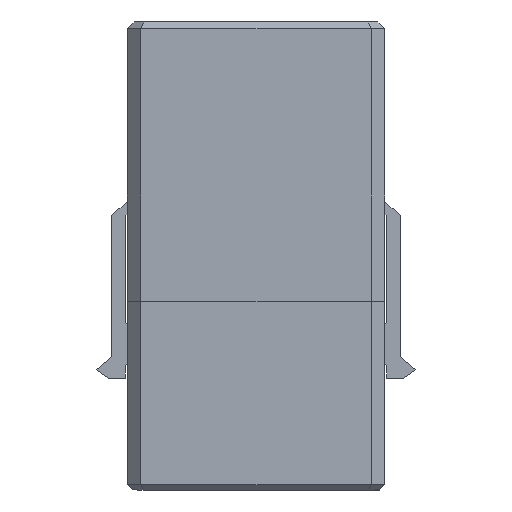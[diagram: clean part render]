
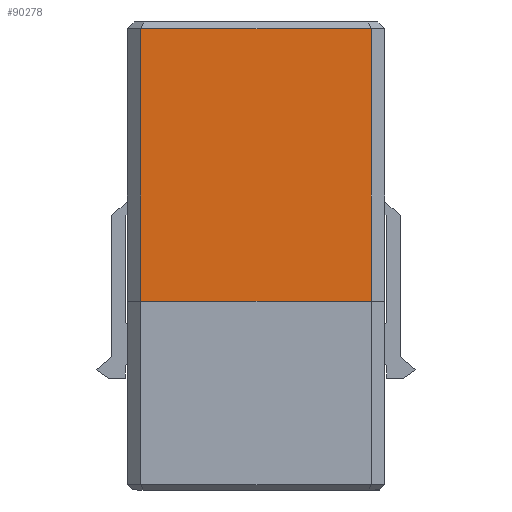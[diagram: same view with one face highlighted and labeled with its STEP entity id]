
A CAD part, left-side view. The second image highlights one B-rep face of the part: STEP entity #90278.
In plain terms, the highlighted planar face has unit normal (-1, 0, 0).
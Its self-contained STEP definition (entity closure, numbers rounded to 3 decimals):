
#90278 = ADVANCED_FACE('',(#90279),#90293,.T.);
#90279 = FACE_BOUND('',#90280,.T.);
#90280 = EDGE_LOOP('',(#90281,#90316,#90344,#90372));
#90281 = ORIENTED_EDGE('',*,*,#90282,.T.);
#90282 = EDGE_CURVE('',#90283,#90285,#90287,.T.);
#90283 = VERTEX_POINT('',#90284);
#90284 = CARTESIAN_POINT('',(-73.5,-13.4,22.));
#90285 = VERTEX_POINT('',#90286);
#90286 = CARTESIAN_POINT('',(-73.5,-13.4,53.7));
#90287 = SURFACE_CURVE('',#90288,(#90292,#90304),.PCURVE_S1.);
#90288 = LINE('',#90289,#90290);
#90289 = CARTESIAN_POINT('',(-73.5,-13.4,22.));
#90290 = VECTOR('',#90291,1.);
#90291 = DIRECTION('',(0.,0.,1.));
#90292 = PCURVE('',#90293,#90298);
#90293 = PLANE('',#90294);
#90294 = AXIS2_PLACEMENT_3D('',#90295,#90296,#90297);
#90295 = CARTESIAN_POINT('',(-73.5,-13.4,22.));
#90296 = DIRECTION('',(-1.,-0.,0.));
#90297 = DIRECTION('',(-0.,1.,0.));
#90298 = DEFINITIONAL_REPRESENTATION('',(#90299),#90303);
#90299 = LINE('',#90300,#90301);
#90300 = CARTESIAN_POINT('',(0.,0.));
#90301 = VECTOR('',#90302,1.);
#90302 = DIRECTION('',(0.,-1.));
#90303 = ( GEOMETRIC_REPRESENTATION_CONTEXT(2) 
PARAMETRIC_REPRESENTATION_CONTEXT() REPRESENTATION_CONTEXT('2D SPACE',''
  ) );
#90304 = PCURVE('',#90305,#90310);
#90305 = PLANE('',#90306);
#90306 = AXIS2_PLACEMENT_3D('',#90307,#90308,#90309);
#90307 = CARTESIAN_POINT('',(-73.5,-13.4,22.));
#90308 = DIRECTION('',(0.707,0.707,-0.));
#90309 = DIRECTION('',(0.707,-0.707,0.));
#90310 = DEFINITIONAL_REPRESENTATION('',(#90311),#90315);
#90311 = LINE('',#90312,#90313);
#90312 = CARTESIAN_POINT('',(0.,0.));
#90313 = VECTOR('',#90314,1.);
#90314 = DIRECTION('',(0.,-1.));
#90315 = ( GEOMETRIC_REPRESENTATION_CONTEXT(2) 
PARAMETRIC_REPRESENTATION_CONTEXT() REPRESENTATION_CONTEXT('2D SPACE',''
  ) );
#90316 = ORIENTED_EDGE('',*,*,#90317,.T.);
#90317 = EDGE_CURVE('',#90285,#90318,#90320,.T.);
#90318 = VERTEX_POINT('',#90319);
#90319 = CARTESIAN_POINT('',(-73.5,13.4,53.7));
#90320 = SURFACE_CURVE('',#90321,(#90325,#90332),.PCURVE_S1.);
#90321 = LINE('',#90322,#90323);
#90322 = CARTESIAN_POINT('',(-73.5,-13.4,53.7));
#90323 = VECTOR('',#90324,1.);
#90324 = DIRECTION('',(-0.,1.,0.));
#90325 = PCURVE('',#90293,#90326);
#90326 = DEFINITIONAL_REPRESENTATION('',(#90327),#90331);
#90327 = LINE('',#90328,#90329);
#90328 = CARTESIAN_POINT('',(0.,-31.7));
#90329 = VECTOR('',#90330,1.);
#90330 = DIRECTION('',(1.,0.));
#90331 = ( GEOMETRIC_REPRESENTATION_CONTEXT(2) 
PARAMETRIC_REPRESENTATION_CONTEXT() REPRESENTATION_CONTEXT('2D SPACE',''
  ) );
#90332 = PCURVE('',#90333,#90338);
#90333 = PLANE('',#90334);
#90334 = AXIS2_PLACEMENT_3D('',#90335,#90336,#90337);
#90335 = CARTESIAN_POINT('',(-73.1,-13.4,54.1));
#90336 = DIRECTION('',(-0.707,0.,0.707));
#90337 = DIRECTION('',(-0.,-1.,0.));
#90338 = DEFINITIONAL_REPRESENTATION('',(#90339),#90343);
#90339 = LINE('',#90340,#90341);
#90340 = CARTESIAN_POINT('',(-0.,-0.566));
#90341 = VECTOR('',#90342,1.);
#90342 = DIRECTION('',(-1.,0.));
#90343 = ( GEOMETRIC_REPRESENTATION_CONTEXT(2) 
PARAMETRIC_REPRESENTATION_CONTEXT() REPRESENTATION_CONTEXT('2D SPACE',''
  ) );
#90344 = ORIENTED_EDGE('',*,*,#90345,.F.);
#90345 = EDGE_CURVE('',#90346,#90318,#90348,.T.);
#90346 = VERTEX_POINT('',#90347);
#90347 = CARTESIAN_POINT('',(-73.5,13.4,22.));
#90348 = SURFACE_CURVE('',#90349,(#90353,#90360),.PCURVE_S1.);
#90349 = LINE('',#90350,#90351);
#90350 = CARTESIAN_POINT('',(-73.5,13.4,22.));
#90351 = VECTOR('',#90352,1.);
#90352 = DIRECTION('',(0.,0.,1.));
#90353 = PCURVE('',#90293,#90354);
#90354 = DEFINITIONAL_REPRESENTATION('',(#90355),#90359);
#90355 = LINE('',#90356,#90357);
#90356 = CARTESIAN_POINT('',(26.8,0.));
#90357 = VECTOR('',#90358,1.);
#90358 = DIRECTION('',(0.,-1.));
#90359 = ( GEOMETRIC_REPRESENTATION_CONTEXT(2) 
PARAMETRIC_REPRESENTATION_CONTEXT() REPRESENTATION_CONTEXT('2D SPACE',''
  ) );
#90360 = PCURVE('',#90361,#90366);
#90361 = PLANE('',#90362);
#90362 = AXIS2_PLACEMENT_3D('',#90363,#90364,#90365);
#90363 = CARTESIAN_POINT('',(-73.5,13.4,22.));
#90364 = DIRECTION('',(-0.707,0.707,0.));
#90365 = DIRECTION('',(0.707,0.707,0.));
#90366 = DEFINITIONAL_REPRESENTATION('',(#90367),#90371);
#90367 = LINE('',#90368,#90369);
#90368 = CARTESIAN_POINT('',(0.,0.));
#90369 = VECTOR('',#90370,1.);
#90370 = DIRECTION('',(0.,-1.));
#90371 = ( GEOMETRIC_REPRESENTATION_CONTEXT(2) 
PARAMETRIC_REPRESENTATION_CONTEXT() REPRESENTATION_CONTEXT('2D SPACE',''
  ) );
#90372 = ORIENTED_EDGE('',*,*,#90373,.F.);
#90373 = EDGE_CURVE('',#90283,#90346,#90374,.T.);
#90374 = SURFACE_CURVE('',#90375,(#90379,#90386),.PCURVE_S1.);
#90375 = LINE('',#90376,#90377);
#90376 = CARTESIAN_POINT('',(-73.5,0.,22.));
#90377 = VECTOR('',#90378,1.);
#90378 = DIRECTION('',(-0.,1.,0.));
#90379 = PCURVE('',#90293,#90380);
#90380 = DEFINITIONAL_REPRESENTATION('',(#90381),#90385);
#90381 = LINE('',#90382,#90383);
#90382 = CARTESIAN_POINT('',(13.4,0.));
#90383 = VECTOR('',#90384,1.);
#90384 = DIRECTION('',(1.,0.));
#90385 = ( GEOMETRIC_REPRESENTATION_CONTEXT(2) 
PARAMETRIC_REPRESENTATION_CONTEXT() REPRESENTATION_CONTEXT('2D SPACE',''
  ) );
#90386 = PCURVE('',#90387,#90392);
#90387 = PLANE('',#90388);
#90388 = AXIS2_PLACEMENT_3D('',#90389,#90390,#90391);
#90389 = CARTESIAN_POINT('',(0.,0.,22.));
#90390 = DIRECTION('',(0.,0.,1.));
#90391 = DIRECTION('',(1.,0.,-0.));
#90392 = DEFINITIONAL_REPRESENTATION('',(#90393),#90397);
#90393 = LINE('',#90394,#90395);
#90394 = CARTESIAN_POINT('',(-73.5,0.));
#90395 = VECTOR('',#90396,1.);
#90396 = DIRECTION('',(0.,1.));
#90397 = ( GEOMETRIC_REPRESENTATION_CONTEXT(2) 
PARAMETRIC_REPRESENTATION_CONTEXT() REPRESENTATION_CONTEXT('2D SPACE',''
  ) );
